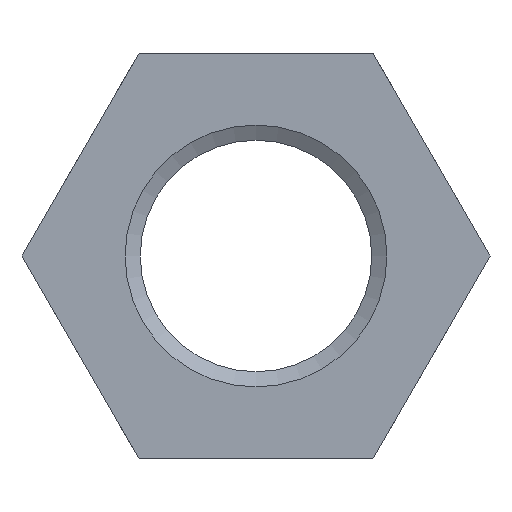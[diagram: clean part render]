
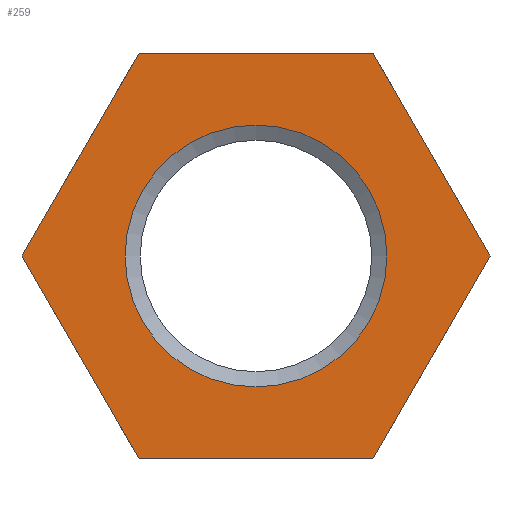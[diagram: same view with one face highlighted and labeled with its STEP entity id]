
A CAD part, front view. The second image highlights one B-rep face of the part: STEP entity #259.
In plain terms, the highlighted planar face has unit normal (0, -1, 0).
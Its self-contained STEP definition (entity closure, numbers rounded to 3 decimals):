
#14=LINE($,#435,#26);
#17=LINE($,#440,#29);
#19=LINE($,#444,#31);
#21=LINE($,#448,#33);
#23=LINE($,#452,#35);
#24=LINE($,#454,#36);
#26=VECTOR($,#334,37.528);
#29=VECTOR($,#339,37.528);
#31=VECTOR($,#343,37.528);
#33=VECTOR($,#347,37.528);
#35=VECTOR($,#351,37.528);
#36=VECTOR($,#354,37.528);
#43=PLANE($,#289);
#61=FACE_BOUND($,#98,.T.);
#62=FACE_BOUND($,#99,.T.);
#98=EDGE_LOOP($,(#222));
#99=EDGE_LOOP($,(#223,#224,#225,#226,#227,#228));
#102=CIRCLE($,#265,21.);
#112=VERTEX_POINT($,#361);
#128=VERTEX_POINT($,#432);
#129=VERTEX_POINT($,#434);
#130=VERTEX_POINT($,#438);
#131=VERTEX_POINT($,#442);
#132=VERTEX_POINT($,#446);
#133=VERTEX_POINT($,#450);
#134=EDGE_CURVE($,#112,#112,#102,.T.);
#157=EDGE_CURVE($,#129,#128,#14,.T.);
#160=EDGE_CURVE($,#128,#130,#17,.T.);
#162=EDGE_CURVE($,#130,#131,#19,.T.);
#164=EDGE_CURVE($,#131,#132,#21,.T.);
#166=EDGE_CURVE($,#132,#133,#23,.T.);
#167=EDGE_CURVE($,#133,#129,#24,.T.);
#222=ORIENTED_EDGE($,*,*,#134,.T.);
#223=ORIENTED_EDGE($,*,*,#162,.T.);
#224=ORIENTED_EDGE($,*,*,#164,.T.);
#225=ORIENTED_EDGE($,*,*,#166,.T.);
#226=ORIENTED_EDGE($,*,*,#167,.T.);
#227=ORIENTED_EDGE($,*,*,#157,.T.);
#228=ORIENTED_EDGE($,*,*,#160,.T.);
#259=ADVANCED_FACE($,(#61,#62),#43,.F.);
#265=AXIS2_PLACEMENT_3D($,#362,#295,#296);
#289=AXIS2_PLACEMENT_3D($,#455,#355,#356);
#295=DIRECTION('center_axis',(0.,1.,0.));
#296=DIRECTION('ref_axis',(-1.,0.,0.));
#334=DIRECTION($,(-1.,0.,0.));
#339=DIRECTION($,(-0.5,0.,-0.866));
#343=DIRECTION($,(0.5,0.,-0.866));
#347=DIRECTION($,(1.,0.,0.));
#351=DIRECTION($,(0.5,0.,0.866));
#354=DIRECTION($,(-0.5,0.,0.866));
#355=DIRECTION('center_axis',(0.,1.,0.));
#356=DIRECTION('ref_axis',(0.,0.,1.));
#361=CARTESIAN_POINT('',(-21.,0.,0.));
#362=CARTESIAN_POINT('Origin',(0.,0.,0.));
#432=CARTESIAN_POINT('',(-18.764,0.,32.5));
#434=CARTESIAN_POINT('',(18.764,0.,32.5));
#435=CARTESIAN_POINT($,(18.764,0.,32.5));
#438=CARTESIAN_POINT('',(-37.528,0.,0.));
#440=CARTESIAN_POINT($,(-18.764,0.,32.5));
#442=CARTESIAN_POINT('',(-18.764,0.,-32.5));
#444=CARTESIAN_POINT($,(-37.528,0.,0.));
#446=CARTESIAN_POINT('',(18.764,0.,-32.5));
#448=CARTESIAN_POINT($,(-18.764,0.,-32.5));
#450=CARTESIAN_POINT('',(37.528,0.,0.));
#452=CARTESIAN_POINT($,(18.764,0.,-32.5));
#454=CARTESIAN_POINT($,(37.528,0.,0.));
#455=CARTESIAN_POINT('Origin',(0.,0.,0.));
